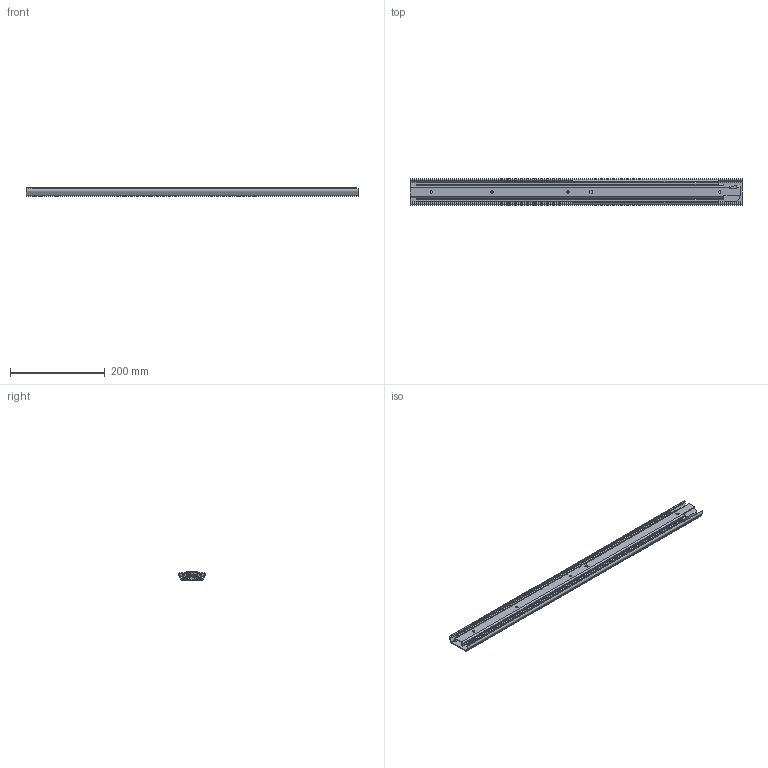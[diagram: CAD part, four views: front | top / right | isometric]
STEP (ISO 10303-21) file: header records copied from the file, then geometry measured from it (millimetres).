
FILE_DESCRIPTION( ( 'STEP AP203' ), '1' );
FILE_NAME( 'C:/Temp/Ganter_Step_05_03_2020/data/3_8/gn1422/Telescopic slide GN 1422-700-B-2-ZB (0).stp', '2020-03-12T15:26:08', ( 'License CC BY-ND 4.0' ), ( 'CADENAS' ), ' ', 'PARTsolutions', ' ' );
FILE_SCHEMA( ( 'CONFIG_CONTROL_DESIGN' ) );
Length unit declared in the file: millimetre
Products named in the file (4): Telescopic slide GN 1422-700-B-2-ZB (0); _Telescopic slide GN 1422-700-B-2-ZB (0)-1; _Telescopic slide GN 1422-700-B-2-ZB (0)-2; _Telescopic slide GN 1422-700-B-2-ZB (0)-3
Assembly tree (3 placements, depth 2):
  Telescopic slide GN 1422-700-B-2-ZB (0)
    _Telescopic slide GN 1422-700-B-2-ZB (0)-1
    _Telescopic slide GN 1422-700-B-2-ZB (0)-2
    _Telescopic slide GN 1422-700-B-2-ZB (0)-3
Bounding box: 700 x 55.78 x 18.5 mm (x, y, z)
Volume: 285166.6 mm3; surface area: 307295.7 mm2
Topology: 3 solids, 3 shells, 322 faces, 946 edges, 621 vertices
Faces by surface type: plane 190, cylinder 124, cone 8
Full cylindrical faces by diameter (mm): 5 x4, 6.5 x4, 11 x3
Entity records: 10894 total; most frequent: CARTESIAN_POINT 1988, ORIENTED_EDGE 1848, DIRECTION 1833, EDGE_CURVE 924, LINE 643, VECTOR 643, VERTEX_POINT 618, AXIS2_PLACEMENT_3D 595
